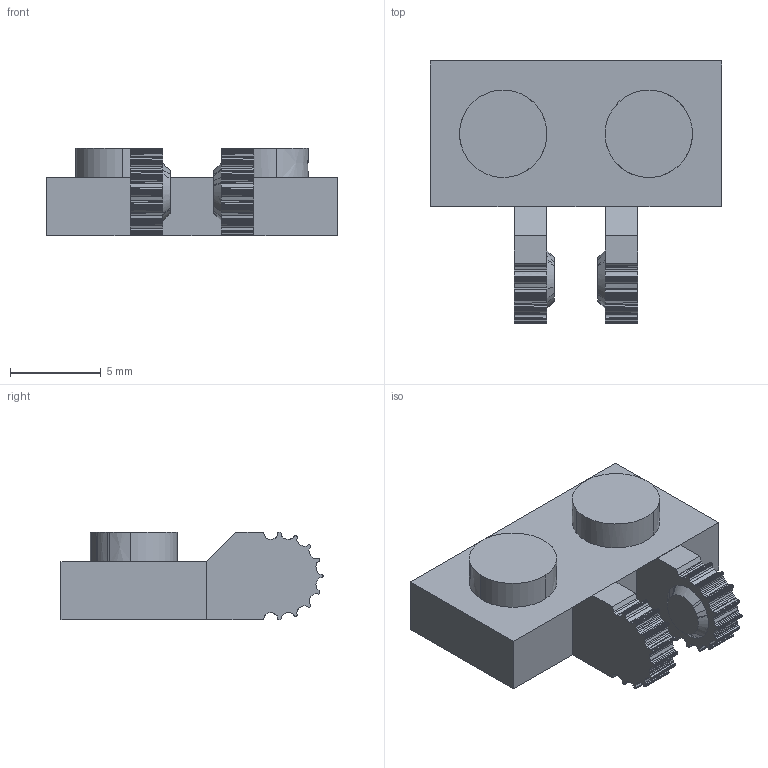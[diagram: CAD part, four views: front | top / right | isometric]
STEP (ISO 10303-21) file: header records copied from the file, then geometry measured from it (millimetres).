
FILE_DESCRIPTION(('Open CASCADE Model'),'2;1');
FILE_NAME('Open CASCADE Shape Model','2026-10-23T20:03:49',('Author'),( 'Open CASCADE'),'Open CASCADE STEP processor 7.9','Open CASCADE 7.9' ,'Unknown');
FILE_SCHEMA(('AUTOMOTIVE_DESIGN { 1 0 10303 214 1 1 1 1 }'));
Products named in the file (1): Open CASCADE STEP translator 7.9 3
Bounding box: 16.01 x 14.4 x 4.79 mm (x, y, z)
Volume: 476.3 mm3; surface area: 691.2 mm2
Topology: 1 solids, 1 shells, 759 faces, 2167 edges, 1416 vertices
Faces by surface type: plane 734, bspline 18, cylinder 7
Entity records: 53308 total; most frequent: CARTESIAN_POINT 11849, DIRECTION 6962, LINE 5405, VECTOR 5405, ORIENTED_EDGE 4334, PCURVE 4334, DEFINITIONAL_REPRESENTATION 4334, EDGE_CURVE 2167
